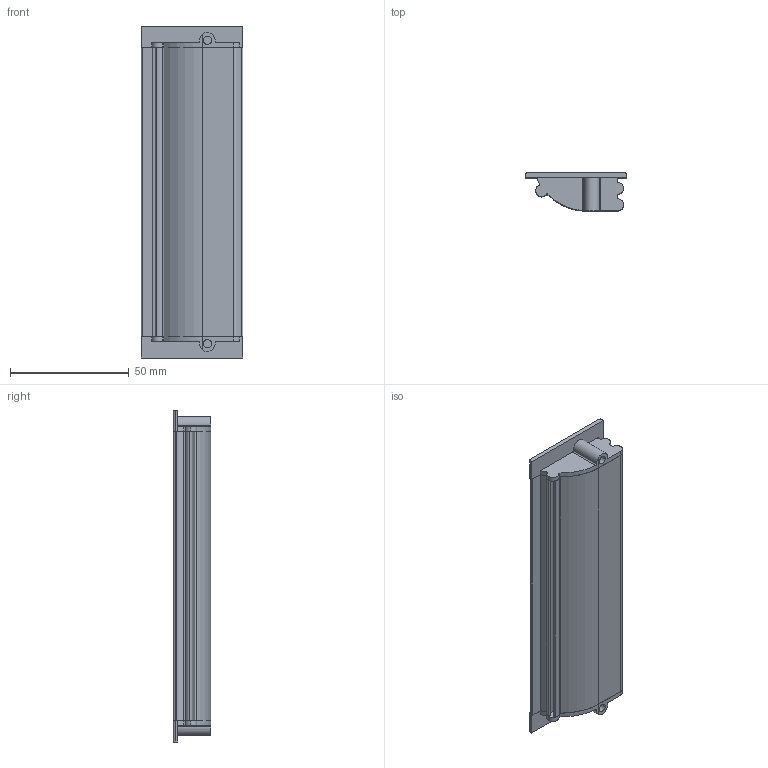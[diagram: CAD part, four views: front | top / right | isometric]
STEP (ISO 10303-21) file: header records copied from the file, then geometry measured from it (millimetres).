
FILE_DESCRIPTION (( 'STEP AP214' ), '1' );
FILE_NAME ('Uchytka CONCAVA 128_157776 a 157777 a 157778_3D.STEP', '2019-07-17T10:47:06', ( '' ), ( '' ), 'SwSTEP 2.0', 'SolidWorks 2019', '' );
FILE_SCHEMA (( 'AUTOMOTIVE_DESIGN' ));
Length unit declared in the file: millimetre
Products named in the file (4): Concava 128 t骴o; concavakrytka_prava; Uchytka CONCAVA 128_157776 a 157777 a 157778_3D; concava krytka_leva
Assembly tree (3 placements, depth 2):
  Uchytka CONCAVA 128_157776 a 157777 a 157778_3D
    Concava 128 t骴o
    concava krytka_leva
    concavakrytka_prava
Bounding box: 43 x 16 x 140 mm (x, y, z)
Volume: 22324.6 mm3; surface area: 24674.9 mm2
Topology: 3 solids, 3 shells, 101 faces, 277 edges, 184 vertices
Faces by surface type: cylinder 60, plane 41
Full cylindrical faces by diameter (mm): 3.5 x2
Entity records: 3549 total; most frequent: CARTESIAN_POINT 734, DIRECTION 599, ORIENTED_EDGE 550, EDGE_CURVE 275, AXIS2_PLACEMENT_3D 225, VERTEX_POINT 184, VECTOR 149, LINE 149
